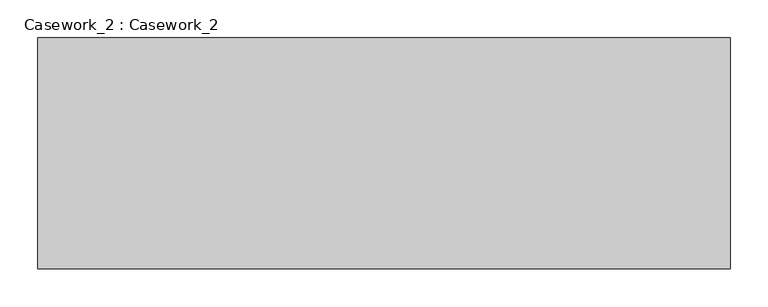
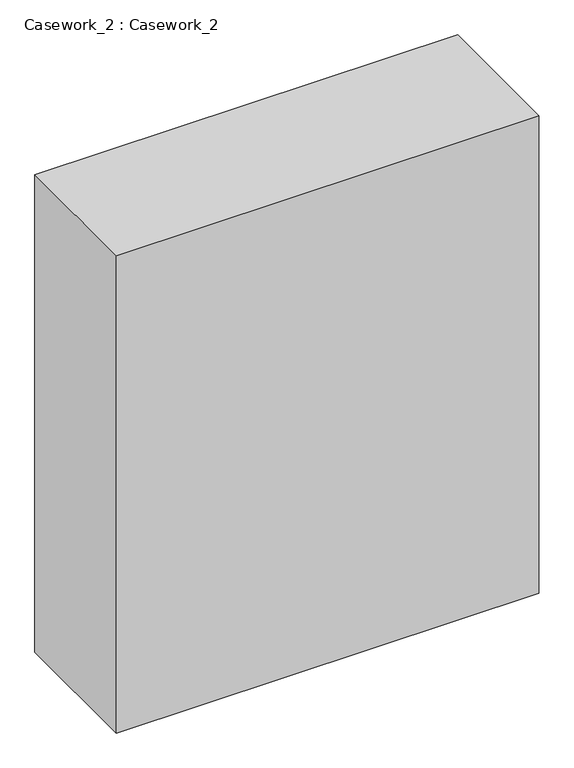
"""IFC4 building model written with IfcOpenShell, lengths in millimetres: furniture geometry, Casework_2 : Casework_2."""

from ifc_helpers import new_model, si_unit, origin, origin_with_axes, place, context, project, spatial, polyline, outline, extrude, source, transform, mapped, element, save


def casework_2_casework_2_7a8d8605(model_context):
    return source(origin(), model_context, "Body", "SweptSolid", [
        extrude(outline(polyline([(457.2, 0.0), (-457.2, 0.0), (-457.2, 304.8), (457.2, 304.8), (457.2, 0.0)])), origin_with_axes(), (0.0, 0.0, 1.0), 1092.2),
    ])


if __name__ == "__main__":
    model = new_model("IFC4")
    model_context = context("Model", 3, world=origin())
    ifc_project = project(units=[si_unit("LENGTHUNIT", "METRE", prefix="MILLI")], contexts=[model_context])
    site = spatial("IfcSite", under=ifc_project)
    building = spatial("IfcBuilding", under=site)
    placement = place(None, origin())
    casework_2_casework_2_shape = casework_2_casework_2_7a8d8605(model_context)
    element("IfcFurniture", 1, ObjectType="Casework_2 : Casework_2", at=placement, inside=building, context=model_context, shape_type="MappedRepresentation", body=[
        mapped(casework_2_casework_2_shape, transform((0.0, 0.0, 0.0), x_axis=(1.0, 0.0, 0.0), y_axis=(0.0, 1.0, 0.0), z_axis=(0.0, 0.0, 1.0))),
    ])
    save(model, "model.ifc")
